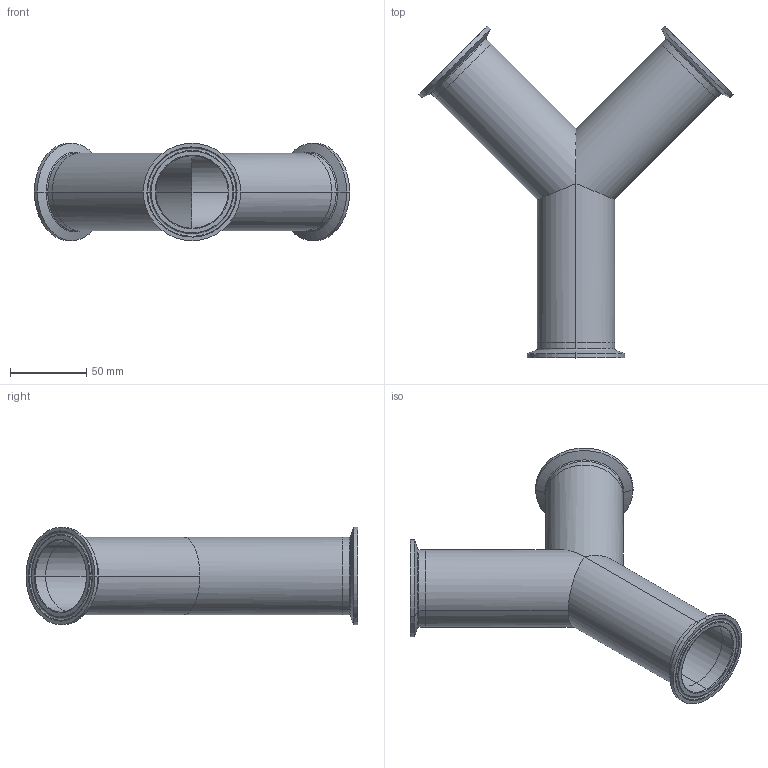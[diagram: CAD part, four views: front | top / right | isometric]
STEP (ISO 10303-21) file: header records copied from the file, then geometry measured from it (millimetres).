
FILE_DESCRIPTION (( 'STEP AP214' ), '1' );
FILE_NAME ('TEG28B6L2.0-...STEP', '2016-05-25T04:43:40', ( 'eran' ), ( '' ), 'SwSTEP 2.0', 'SolidWorks 2016', '' );
FILE_SCHEMA (( 'AUTOMOTIVE_DESIGN' ));
Length unit declared in the file: millimetre
Products named in the file (1): TEG28B6L2.0-..
Bounding box: 206.83 x 217.72 x 63.91 mm (x, y, z)
Volume: 93544.3 mm3; surface area: 106005.6 mm2
Topology: 4 solids, 4 shells, 90 faces, 200 edges, 120 vertices
Faces by surface type: cylinder 30, bspline 30, cone 18, plane 12
Entity records: 4455 total; most frequent: CARTESIAN_POINT 2475, DIRECTION 414, ORIENTED_EDGE 400, EDGE_CURVE 200, AXIS2_PLACEMENT_3D 183, CIRCLE 122, VERTEX_POINT 120, EDGE_LOOP 102
